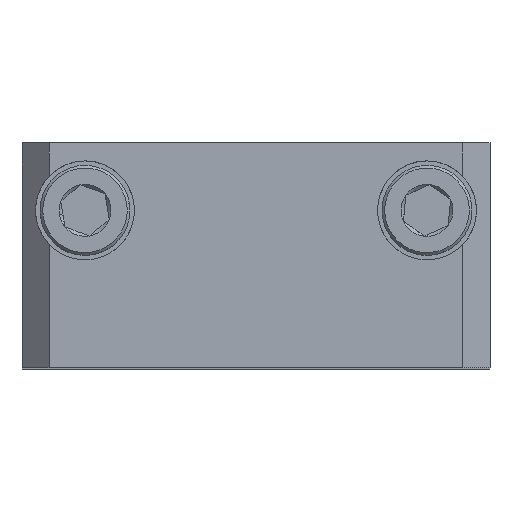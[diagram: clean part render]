
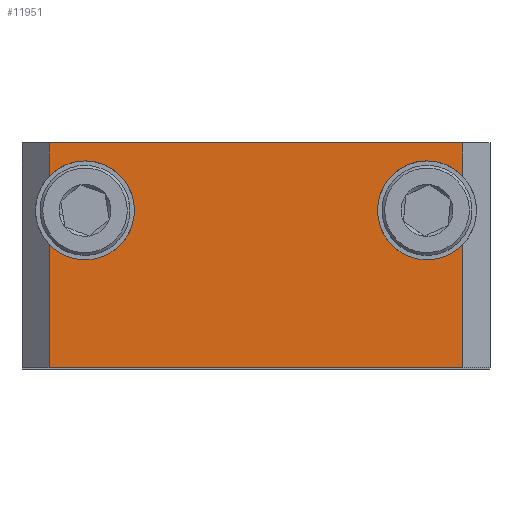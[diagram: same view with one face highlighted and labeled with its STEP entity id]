
A CAD part, top view. The second image highlights one B-rep face of the part: STEP entity #11951.
In plain terms, the highlighted planar face has unit normal (0, 0, 1) as drawn and (0, 0, -1) by its records, which use the part's own axes.
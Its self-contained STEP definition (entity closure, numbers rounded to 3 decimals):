
#102 = DIRECTION ( 'NONE',  ( -1., 0., 0. ) ) ;
#467 = DIRECTION ( 'NONE',  ( -1., 0., 0. ) ) ;
#669 = VECTOR ( 'NONE', #16393, 1000. ) ;
#729 = DIRECTION ( 'NONE',  ( -1., 0., 0. ) ) ;
#1012 = CARTESIAN_POINT ( 'NONE',  ( 19., 17.5, -4.5 ) ) ;
#1193 = ORIENTED_EDGE ( 'NONE', *, *, #14387, .F. ) ;
#1328 = AXIS2_PLACEMENT_3D ( 'NONE', #1012, #7074, #1596 ) ;
#1545 = EDGE_CURVE ( 'NONE', #17585, #10485, #4373, .T. ) ;
#1563 = EDGE_CURVE ( 'NONE', #17585, #15599, #14967, .T. ) ;
#1596 = DIRECTION ( 'NONE',  ( -1., 0., 0. ) ) ;
#1759 = LINE ( 'NONE', #16769, #2851 ) ;
#1807 = EDGE_CURVE ( 'NONE', #10485, #5383, #17868, .T. ) ;
#1894 = EDGE_CURVE ( 'NONE', #2697, #3214, #2574, .T. ) ;
#2357 = AXIS2_PLACEMENT_3D ( 'NONE', #9848, #5378, #729 ) ;
#2405 = ORIENTED_EDGE ( 'NONE', *, *, #5505, .F. ) ;
#2539 = ORIENTED_EDGE ( 'NONE', *, *, #1894, .F. ) ;
#2574 = CIRCLE ( 'NONE', #17169, 5.5 ) ;
#2697 = VERTEX_POINT ( 'NONE', #8748 ) ;
#2851 = VECTOR ( 'NONE', #7806, 1000. ) ;
#2975 = DIRECTION ( 'NONE',  ( 0., -1., 0. ) ) ;
#3214 = VERTEX_POINT ( 'NONE', #9849 ) ;
#4076 = CARTESIAN_POINT ( 'NONE',  ( -23., 25., -4.5 ) ) ;
#4373 = LINE ( 'NONE', #10038, #12405 ) ;
#4495 = CARTESIAN_POINT ( 'NONE',  ( -26., 25., -4.5 ) ) ;
#4599 = DIRECTION ( 'NONE',  ( -1., 0., 0. ) ) ;
#4607 = ORIENTED_EDGE ( 'NONE', *, *, #1563, .F. ) ;
#4611 = EDGE_CURVE ( 'NONE', #5383, #11874, #15020, .T. ) ;
#4626 = VERTEX_POINT ( 'NONE', #7367 ) ;
#5019 = DIRECTION ( 'NONE',  ( 0., 0., -1. ) ) ;
#5123 = CARTESIAN_POINT ( 'NONE',  ( -19., 17.5, -4.5 ) ) ;
#5378 = DIRECTION ( 'NONE',  ( 0., 0., -1. ) ) ;
#5383 = VERTEX_POINT ( 'NONE', #7300 ) ;
#5501 = CIRCLE ( 'NONE', #2357, 5.5 ) ;
#5505 = EDGE_CURVE ( 'NONE', #12329, #7353, #12243, .T. ) ;
#5748 = CIRCLE ( 'NONE', #7611, 5.5 ) ;
#6956 = VECTOR ( 'NONE', #4599, 1000. ) ;
#7074 = DIRECTION ( 'NONE',  ( 0., 0., -1. ) ) ;
#7160 = ORIENTED_EDGE ( 'NONE', *, *, #4611, .T. ) ;
#7190 = DIRECTION ( 'NONE',  ( 1., 0., 0. ) ) ;
#7300 = CARTESIAN_POINT ( 'NONE',  ( -23., 0., -4.5 ) ) ;
#7353 = VERTEX_POINT ( 'NONE', #4076 ) ;
#7367 = CARTESIAN_POINT ( 'NONE',  ( 23., 21.275, -4.5 ) ) ;
#7377 = VECTOR ( 'NONE', #2975, 1000. ) ;
#7392 = PLANE ( 'NONE',  #11181 ) ;
#7544 = DIRECTION ( 'NONE',  ( 0., 0., -1. ) ) ;
#7611 = AXIS2_PLACEMENT_3D ( 'NONE', #5123, #5019, #467 ) ;
#7806 = DIRECTION ( 'NONE',  ( 0., 1., 0. ) ) ;
#8008 = CARTESIAN_POINT ( 'NONE',  ( -23., 25., -4.5 ) ) ;
#8686 = ORIENTED_EDGE ( 'NONE', *, *, #1545, .T. ) ;
#8748 = CARTESIAN_POINT ( 'NONE',  ( -23., 21.275, -4.5 ) ) ;
#8852 = CARTESIAN_POINT ( 'NONE',  ( 23., 25., -4.5 ) ) ;
#9848 = CARTESIAN_POINT ( 'NONE',  ( 19., 17.5, -4.5 ) ) ;
#9849 = CARTESIAN_POINT ( 'NONE',  ( -13.5, 17.5, -4.5 ) ) ;
#10038 = CARTESIAN_POINT ( 'NONE',  ( 23., 25., -4.5 ) ) ;
#10225 = ORIENTED_EDGE ( 'NONE', *, *, #15744, .T. ) ;
#10303 = CARTESIAN_POINT ( 'NONE',  ( -26., 0., -4.5 ) ) ;
#10358 = EDGE_CURVE ( 'NONE', #15599, #4626, #5501, .T. ) ;
#10485 = VERTEX_POINT ( 'NONE', #16791 ) ;
#11181 = AXIS2_PLACEMENT_3D ( 'NONE', #4495, #11644, #7190 ) ;
#11644 = DIRECTION ( 'NONE',  ( 0., 0., 1. ) ) ;
#11874 = VERTEX_POINT ( 'NONE', #15741 ) ;
#11914 = CARTESIAN_POINT ( 'NONE',  ( -19., 17.5, -4.5 ) ) ;
#11934 = CARTESIAN_POINT ( 'NONE',  ( 23., 13.725, -4.5 ) ) ;
#11951 = ADVANCED_FACE ( 'NONE', ( #19286 ), #7392, .F. ) ;
#12243 = LINE ( 'NONE', #19577, #6956 ) ;
#12329 = VERTEX_POINT ( 'NONE', #16212 ) ;
#12405 = VECTOR ( 'NONE', #16120, 1000. ) ;
#13870 = DIRECTION ( 'NONE',  ( 0., 1., 0. ) ) ;
#13931 = VECTOR ( 'NONE', #13870, 1000. ) ;
#14387 = EDGE_CURVE ( 'NONE', #3214, #11874, #5748, .T. ) ;
#14967 = CIRCLE ( 'NONE', #1328, 5.5 ) ;
#15020 = LINE ( 'NONE', #8008, #13931 ) ;
#15599 = VERTEX_POINT ( 'NONE', #16085 ) ;
#15741 = CARTESIAN_POINT ( 'NONE',  ( -23., 13.725, -4.5 ) ) ;
#15744 = EDGE_CURVE ( 'NONE', #2697, #7353, #1759, .T. ) ;
#16085 = CARTESIAN_POINT ( 'NONE',  ( 13.5, 17.5, -4.5 ) ) ;
#16120 = DIRECTION ( 'NONE',  ( 0., -1., 0. ) ) ;
#16212 = CARTESIAN_POINT ( 'NONE',  ( 23., 25., -4.5 ) ) ;
#16393 = DIRECTION ( 'NONE',  ( -1., 0., 0. ) ) ;
#16686 = ORIENTED_EDGE ( 'NONE', *, *, #18393, .T. ) ;
#16769 = CARTESIAN_POINT ( 'NONE',  ( -23., 25., -4.5 ) ) ;
#16791 = CARTESIAN_POINT ( 'NONE',  ( 23., 0., -4.5 ) ) ;
#17021 = ORIENTED_EDGE ( 'NONE', *, *, #10358, .F. ) ;
#17065 = EDGE_LOOP ( 'NONE', ( #18963, #7160, #1193, #2539, #10225, #2405, #16686, #17021, #4607, #8686 ) ) ;
#17169 = AXIS2_PLACEMENT_3D ( 'NONE', #11914, #7544, #102 ) ;
#17585 = VERTEX_POINT ( 'NONE', #11934 ) ;
#17868 = LINE ( 'NONE', #10303, #669 ) ;
#18258 = LINE ( 'NONE', #8852, #7377 ) ;
#18393 = EDGE_CURVE ( 'NONE', #12329, #4626, #18258, .T. ) ;
#18963 = ORIENTED_EDGE ( 'NONE', *, *, #1807, .T. ) ;
#19286 = FACE_OUTER_BOUND ( 'NONE', #17065, .T. ) ;
#19577 = CARTESIAN_POINT ( 'NONE',  ( -26., 25., -4.5 ) ) ;
